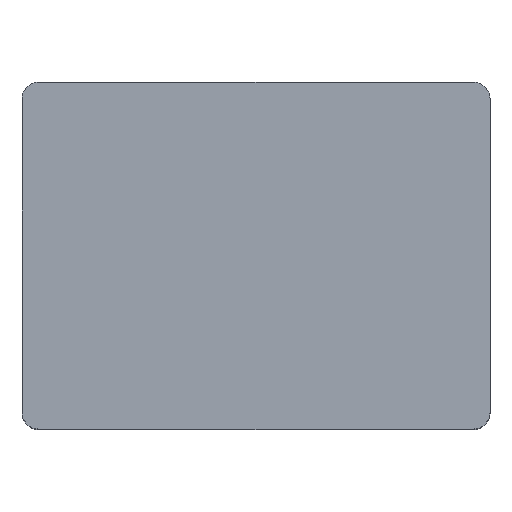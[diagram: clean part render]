
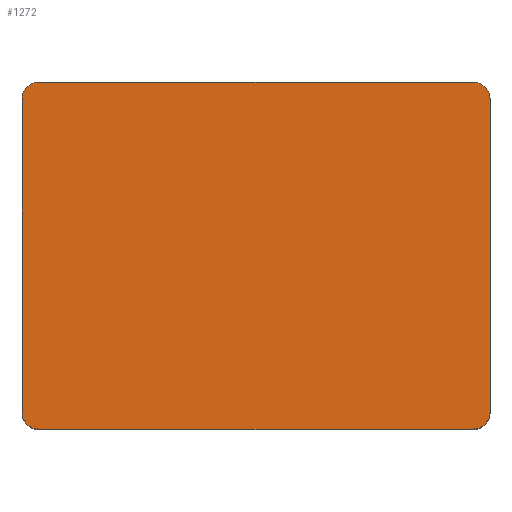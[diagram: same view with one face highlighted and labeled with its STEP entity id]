
A CAD part, top view. The second image highlights one B-rep face of the part: STEP entity #1272.
In plain terms, the highlighted planar face has unit normal (0, 0, 1).
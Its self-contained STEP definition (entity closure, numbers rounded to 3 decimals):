
#33 = EDGE_CURVE ( 'NONE', #1554, #4915, #11045, .T. ) ;
#283 = CARTESIAN_POINT ( 'NONE',  ( 0., 63., 79. ) ) ;
#497 = VECTOR ( 'NONE', #14528, 1000. ) ;
#949 = CARTESIAN_POINT ( 'NONE',  ( 82., 3., 79. ) ) ;
#1187 = DIRECTION ( 'NONE',  ( 0., 0., 1. ) ) ;
#1272 = ADVANCED_FACE ( 'NONE', ( #11109 ), #8195, .F. ) ;
#1277 = ORIENTED_EDGE ( 'NONE', *, *, #10880, .T. ) ;
#1554 = VERTEX_POINT ( 'NONE', #9552 ) ;
#2206 = ORIENTED_EDGE ( 'NONE', *, *, #5395, .T. ) ;
#2301 = CARTESIAN_POINT ( 'NONE',  ( 0., 0., 79. ) ) ;
#3501 = ORIENTED_EDGE ( 'NONE', *, *, #12850, .T. ) ;
#3575 = LINE ( 'NONE', #11615, #8212 ) ;
#3840 = CIRCLE ( 'NONE', #6239, 3. ) ;
#3903 = CARTESIAN_POINT ( 'NONE',  ( 82., 60., 79. ) ) ;
#3955 = DIRECTION ( 'NONE',  ( -1., 0., 0. ) ) ;
#4433 = ORIENTED_EDGE ( 'NONE', *, *, #13109, .T. ) ;
#4485 = VECTOR ( 'NONE', #5739, 1000. ) ;
#4915 = VERTEX_POINT ( 'NONE', #5962 ) ;
#5395 = EDGE_CURVE ( 'NONE', #14679, #1554, #11632, .T. ) ;
#5622 = CARTESIAN_POINT ( 'NONE',  ( 0., 3., 79. ) ) ;
#5624 = CARTESIAN_POINT ( 'NONE',  ( 85., 0., 79. ) ) ;
#5724 = DIRECTION ( 'NONE',  ( 0., 1., 0. ) ) ;
#5739 = DIRECTION ( 'NONE',  ( 0., -1., 0. ) ) ;
#5767 = CARTESIAN_POINT ( 'NONE',  ( 82., 0., 79. ) ) ;
#5902 = VERTEX_POINT ( 'NONE', #5767 ) ;
#5962 = CARTESIAN_POINT ( 'NONE',  ( 82., 63., 79. ) ) ;
#6239 = AXIS2_PLACEMENT_3D ( 'NONE', #7075, #1187, #10506 ) ;
#6377 = VERTEX_POINT ( 'NONE', #5622 ) ;
#6653 = CIRCLE ( 'NONE', #13931, 3. ) ;
#6824 = LINE ( 'NONE', #283, #497 ) ;
#7075 = CARTESIAN_POINT ( 'NONE',  ( 3., 3., 79. ) ) ;
#7224 = CARTESIAN_POINT ( 'NONE',  ( 3., 60., 79. ) ) ;
#7248 = CARTESIAN_POINT ( 'NONE',  ( 3., 0., 79. ) ) ;
#7955 = ORIENTED_EDGE ( 'NONE', *, *, #11206, .T. ) ;
#8006 = CARTESIAN_POINT ( 'NONE',  ( 0., 0., 79. ) ) ;
#8185 = EDGE_LOOP ( 'NONE', ( #3501, #8716, #7955, #4433, #1277, #11614, #2206, #13936 ) ) ;
#8195 = PLANE ( 'NONE',  #9474 ) ;
#8212 = VECTOR ( 'NONE', #15264, 1000. ) ;
#8279 = CARTESIAN_POINT ( 'NONE',  ( 3., 63., 79. ) ) ;
#8514 = AXIS2_PLACEMENT_3D ( 'NONE', #949, #12611, #14933 ) ;
#8523 = CIRCLE ( 'NONE', #8514, 3. ) ;
#8526 = VERTEX_POINT ( 'NONE', #7248 ) ;
#8716 = ORIENTED_EDGE ( 'NONE', *, *, #14107, .T. ) ;
#8897 = VECTOR ( 'NONE', #5724, 1000. ) ;
#8922 = VERTEX_POINT ( 'NONE', #12462 ) ;
#9283 = CARTESIAN_POINT ( 'NONE',  ( 85., 3., 79. ) ) ;
#9364 = DIRECTION ( 'NONE',  ( 0., 0., -1. ) ) ;
#9408 = DIRECTION ( 'NONE',  ( -1., 0., 0. ) ) ;
#9439 = DIRECTION ( 'NONE',  ( -1., 0., 0. ) ) ;
#9474 = AXIS2_PLACEMENT_3D ( 'NONE', #2301, #9364, #9408 ) ;
#9552 = CARTESIAN_POINT ( 'NONE',  ( 85., 60., 79. ) ) ;
#9654 = AXIS2_PLACEMENT_3D ( 'NONE', #3903, #11008, #3955 ) ;
#10386 = LINE ( 'NONE', #8006, #4485 ) ;
#10506 = DIRECTION ( 'NONE',  ( -1., 0., 0. ) ) ;
#10866 = VERTEX_POINT ( 'NONE', #8279 ) ;
#10880 = EDGE_CURVE ( 'NONE', #8526, #5902, #3575, .T. ) ;
#11008 = DIRECTION ( 'NONE',  ( 0., 0., 1. ) ) ;
#11045 = CIRCLE ( 'NONE', #9654, 3. ) ;
#11109 = FACE_OUTER_BOUND ( 'NONE', #8185, .T. ) ;
#11206 = EDGE_CURVE ( 'NONE', #8922, #6377, #10386, .T. ) ;
#11614 = ORIENTED_EDGE ( 'NONE', *, *, #12058, .T. ) ;
#11615 = CARTESIAN_POINT ( 'NONE',  ( 0., 0., 79. ) ) ;
#11632 = LINE ( 'NONE', #5624, #8897 ) ;
#12058 = EDGE_CURVE ( 'NONE', #5902, #14679, #8523, .T. ) ;
#12462 = CARTESIAN_POINT ( 'NONE',  ( 0., 60., 79. ) ) ;
#12611 = DIRECTION ( 'NONE',  ( 0., 0., 1. ) ) ;
#12850 = EDGE_CURVE ( 'NONE', #4915, #10866, #6824, .T. ) ;
#13109 = EDGE_CURVE ( 'NONE', #6377, #8526, #3840, .T. ) ;
#13931 = AXIS2_PLACEMENT_3D ( 'NONE', #7224, #14101, #9439 ) ;
#13936 = ORIENTED_EDGE ( 'NONE', *, *, #33, .T. ) ;
#14101 = DIRECTION ( 'NONE',  ( 0., 0., 1. ) ) ;
#14107 = EDGE_CURVE ( 'NONE', #10866, #8922, #6653, .T. ) ;
#14528 = DIRECTION ( 'NONE',  ( -1., 0., 0. ) ) ;
#14679 = VERTEX_POINT ( 'NONE', #9283 ) ;
#14933 = DIRECTION ( 'NONE',  ( -1., 0., 0. ) ) ;
#15264 = DIRECTION ( 'NONE',  ( 1., 0., 0. ) ) ;
